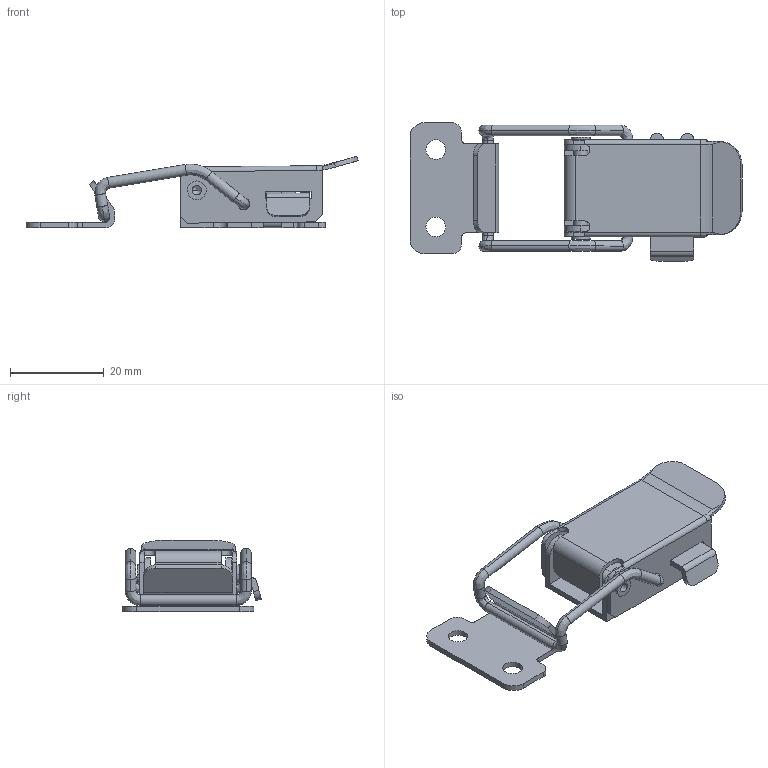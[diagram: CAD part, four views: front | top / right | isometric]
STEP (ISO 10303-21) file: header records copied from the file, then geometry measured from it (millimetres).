
FILE_DESCRIPTION (( 'STEP AP214' ), '1' );
FILE_NAME ('C100 KC-1404.stp', '2012-09-03T06:24:48', ( '' ), ( '' ), 'SwSTEP 2.0', 'SolidWorks 2012', '' );
FILE_SCHEMA (( 'AUTOMOTIVE_DESIGN' ));
Length unit declared in the file: millimetre
Products named in the file (7): KC-1404-ARM(assy); KC-1404-strike; KC-1404-PIN; KC-1404-HOOK; KC-1404-BODY; KC-1404-BASE; C100 KC-1404
Assembly tree (6 placements, depth 2):
  C100 KC-1404
    KC-1404-BASE
    KC-1404-BODY
    KC-1404-HOOK
    KC-1404-PIN
    KC-1404-strike
    KC-1404-ARM(assy)
Bounding box: 70.94 x 29.59 x 15.26 mm (x, y, z)
Volume: 3828 mm3; surface area: 7725 mm2
Topology: 6 solids, 6 shells, 232 faces, 619 edges, 400 vertices
Faces by surface type: plane 111, cylinder 101, bspline 18, cone 2
Entity records: 7809 total; most frequent: CARTESIAN_POINT 1578, DIRECTION 1287, ORIENTED_EDGE 1234, EDGE_CURVE 617, AXIS2_PLACEMENT_3D 457, VERTEX_POINT 400, LINE 373, VECTOR 373
